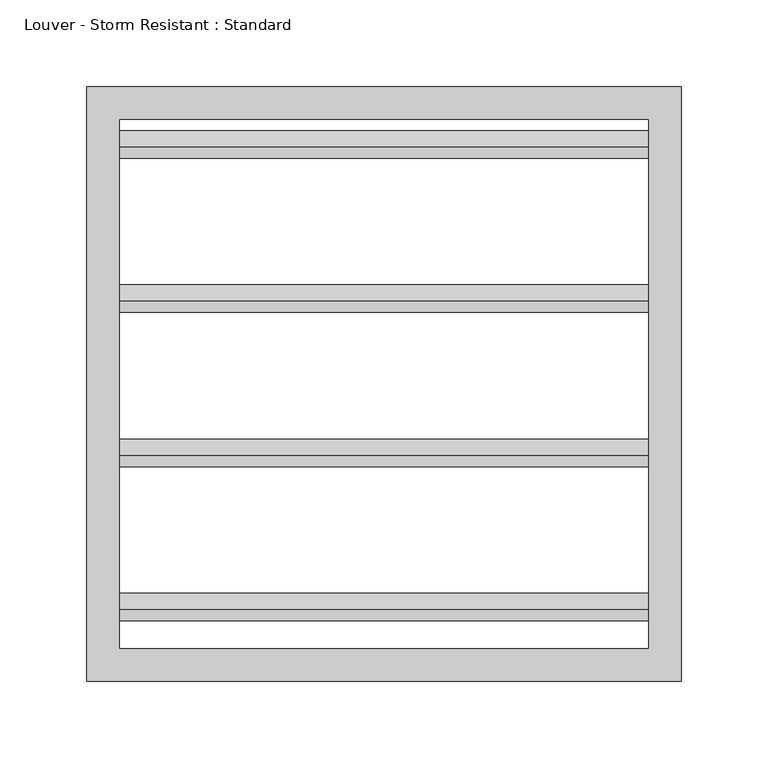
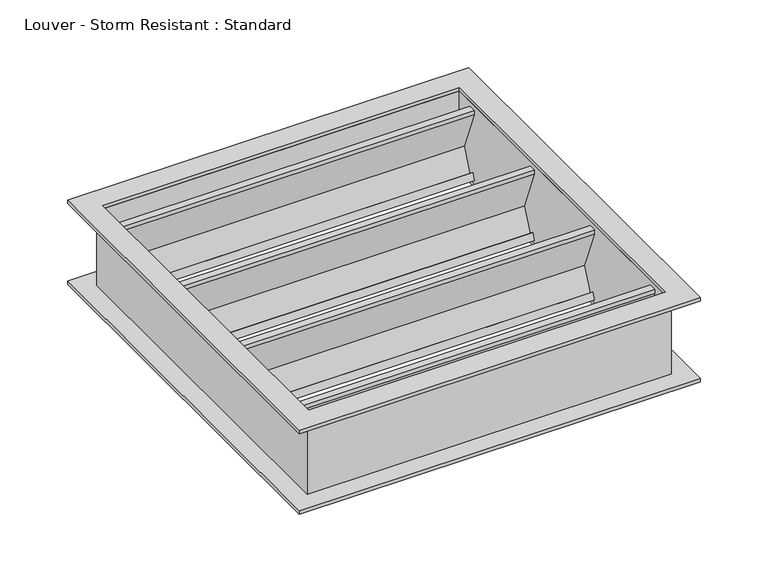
"""IFC4 building model written with IfcOpenShell, lengths in millimetres: air terminal geometry, Louver - Storm Resistant : Standard."""

import ifcopenshell
import ifcopenshell.guid

model = None  # the IFC model being written
_history = None  # IfcOwnerHistory: only IFC2X3 demands one
_inside = {}  # id of a spatial element -> (the spatial element, [elements in it])
_under = {}  # id of a project, library or spatial element -> (it, [spatial elements below it])
_declared = {}  # id of a project -> (the project, [libraries it declares])
_typed = {}  # id of a type object -> (the type object, [elements of that type])
_made_of = {}  # id of a material, layer set ... -> (it, [elements and type objects made of it])


def new_model(schema):
    """Start an empty IFC model of exactly this schema.

    Asked for "IFC4X3", IfcOpenShell would pick the latest addendum, in which some entities
    have other attributes; the version numbers below select the first issue.
    IFC2X3 requires an IfcOwnerHistory on every rooted entity: one is made here for all.
    """
    global model, _history
    if schema == "IFC4X3":
        model = ifcopenshell.file(schema_version=(4, 3, 0, 0))
    else:
        model = ifcopenshell.file(schema=schema)
    _inside.clear()
    _under.clear()
    _declared.clear()
    _typed.clear()
    _made_of.clear()
    _history = None
    if model.schema == "IFC2X3":
        org = make("IfcOrganization", Name="unknown")
        user = make(
            "IfcPersonAndOrganization",
            ThePerson=make("IfcPerson", FamilyName="unknown"),
            TheOrganization=org,
        )
        app = make(
            "IfcApplication",
            ApplicationDeveloper=org,
            Version="unknown",
            ApplicationFullName="unknown",
            ApplicationIdentifier="unknown",
        )
        _history = make(
            "IfcOwnerHistory",
            OwningUser=user,
            OwningApplication=app,
            ChangeAction="ADDED",
            CreationDate=0,
        )
    return model


def make(cls, **values):
    """One entity of the class cls with the attributes given. An attribute that is None is left unset."""
    return model.create_entity(
        cls, **{name: value for name, value in values.items() if value is not None}
    )


def rooted(cls, **values):
    """An entity with a GlobalId (a new one), such as an element, a storey or a relation."""
    return make(cls, GlobalId=ifcopenshell.guid.new(), OwnerHistory=_history, **values)


def si_unit(unit_type, name, prefix=None):
    """IfcSIUnit, for example si_unit("LENGTHUNIT", "METRE", prefix="MILLI")."""
    return make("IfcSIUnit", UnitType=unit_type, Prefix=prefix, Name=name)


def assignment(units):
    """IfcUnitAssignment: the units of a project."""
    return None if units is None else make("IfcUnitAssignment", Units=units)


def point(xyz):
    """IfcCartesianPoint."""
    return None if xyz is None else make("IfcCartesianPoint", Coordinates=xyz)


def direction(xyz):
    """IfcDirection."""
    return None if xyz is None else make("IfcDirection", DirectionRatios=xyz)


def frame(location, z_axis=None, x_axis=None):
    """IfcAxis2Placement3D, a coordinate frame: its origin and axes. An axis left out is left unset."""
    return make(
        "IfcAxis2Placement3D",
        Location=point(location),
        Axis=direction(z_axis),
        RefDirection=direction(x_axis),
    )


def origin():
    """The frame at (0, 0, 0) with its axes left unset."""
    return frame((0.0, 0.0, 0.0))


def place(relative_to, where):
    """IfcLocalPlacement: puts the frame where relative to a parent placement (None: the world)."""
    return make(
        "IfcLocalPlacement", PlacementRelTo=relative_to, RelativePlacement=where
    )


def context(
    kind, dimensions, precision=None, world=None, true_north=None, identifier=None
):
    """IfcGeometricRepresentationContext, for example the 3D "Model" context."""
    return make(
        "IfcGeometricRepresentationContext",
        ContextIdentifier=identifier,
        ContextType=kind,
        CoordinateSpaceDimension=dimensions,
        Precision=precision,
        WorldCoordinateSystem=world,
        TrueNorth=true_north,
    )


def project(units=None, contexts=None):
    """IfcProject with its units and contexts."""
    return rooted(
        "IfcProject",
        Name="project",
        RepresentationContexts=contexts,
        UnitsInContext=assignment(units),
    )


def spatial(cls, under=None, at=None, **own):
    """A site, building, storey or space (cls), placed at a placement, below another one or the project."""
    s = rooted(cls, ObjectPlacement=at, **own)
    if under is not None:
        _under.setdefault(under.id(), (under, []))[1].append(s)
    return s


def polyline(points):
    """IfcPolyline through the points."""
    return make("IfcPolyline", Points=[point(p) for p in points])


def outline(outer, holes=None, kind="AREA"):
    """IfcArbitraryClosedProfileDef: a profile drawn as a closed curve; with holes, ...WithVoids."""
    if holes is None:
        return make("IfcArbitraryClosedProfileDef", ProfileType=kind, OuterCurve=outer)
    return make(
        "IfcArbitraryProfileDefWithVoids",
        ProfileType=kind,
        OuterCurve=outer,
        InnerCurves=holes,
    )


def extrude(swept, where, along, depth):
    """IfcExtrudedAreaSolid: the profile swept, set in the frame where, extruded along a direction by depth."""
    return make(
        "IfcExtrudedAreaSolid",
        SweptArea=swept,
        Position=where,
        ExtrudedDirection=direction(along),
        Depth=depth,
    )


def shape(context_of_items, identifier, shape_type, items):
    """IfcShapeRepresentation: the items that make up one representation, for example the "Body"."""
    return make(
        "IfcShapeRepresentation",
        ContextOfItems=context_of_items,
        RepresentationIdentifier=identifier,
        RepresentationType=shape_type,
        Items=items,
    )


def source(mapping_origin, context_of_items, identifier, shape_type, items):
    """IfcRepresentationMap: a shape defined once, which mapped items show again and again."""
    return make(
        "IfcRepresentationMap",
        MappingOrigin=mapping_origin,
        MappedRepresentation=shape(context_of_items, identifier, shape_type, items),
    )


def transform(
    local_origin,
    x_axis=None,
    y_axis=None,
    z_axis=None,
    scale=None,
    scale2=None,
    scale3=None,
    uniform=True,
):
    """IfcCartesianTransformationOperator3D, or its non-uniform kind. x_axis, y_axis, z_axis: its Axis1, 2, 3."""
    if uniform:
        return make(
            "IfcCartesianTransformationOperator3D",
            Axis1=direction(x_axis),
            Axis2=direction(y_axis),
            LocalOrigin=point(local_origin),
            Scale=scale,
            Axis3=direction(z_axis),
        )
    return make(
        "IfcCartesianTransformationOperator3DnonUniform",
        Axis1=direction(x_axis),
        Axis2=direction(y_axis),
        LocalOrigin=point(local_origin),
        Scale=scale,
        Axis3=direction(z_axis),
        Scale2=scale2,
        Scale3=scale3,
    )


def mapped(mapping_source, mapping_target):
    """IfcMappedItem: shows the shape of a source again, moved by a transform."""
    return make(
        "IfcMappedItem", MappingSource=mapping_source, MappingTarget=mapping_target
    )


def made_of(thing, what):
    """Note that an element or type object is made of a material, layer set ...; save() writes the relation."""
    if what is not None:
        _made_of.setdefault(what.id(), (what, []))[1].append(thing)
    return thing


def element(
    cls,
    number,
    at=None,
    inside=None,
    cuts=None,
    type_object=None,
    material=None,
    context=None,
    identifier="Body",
    shape_type=None,
    held_by="IfcProductDefinitionShape",
    body=None,
    shapes=None,
    **own,
):
    """One element of the class cls, such as IfcWall. Its Tag is "e" and its number.

    at: its placement. inside: the storey or other place that contains it. cuts: it is an
    opening in that element (IfcRelVoidsElement). A single representation is given by context,
    identifier, shape_type and body (its items); several are given by shapes. held_by: the class
    of the entity that holds the representations. save() writes the other relations.
    """
    e = rooted(cls, Tag="e%d" % number, ObjectPlacement=at, **own)
    if body is not None:
        shapes = [shape(context, identifier, shape_type, body)]
    if shapes is not None:
        e.Representation = make(held_by, Representations=shapes)
    if inside is not None:
        _inside.setdefault(inside.id(), (inside, []))[1].append(e)
    if cuts is not None:
        rooted(
            "IfcRelVoidsElement", RelatingBuildingElement=cuts, RelatedOpeningElement=e
        )
    if type_object is not None:
        _typed.setdefault(type_object.id(), (type_object, []))[1].append(e)
    return made_of(e, material)


def aggregate(whole, parts):
    """IfcRelAggregates: a whole, such as a stair, and the parts it consists of."""
    return rooted("IfcRelAggregates", RelatingObject=whole, RelatedObjects=parts)


def save(model, path):
    """Write the relations noted so far, then the file.

    IfcRelAggregates (storeys below a building ...), IfcRelContainedInSpatialStructure (elements
    in a storey), IfcRelDefinesByType, IfcRelAssociatesMaterial and IfcRelDeclares: one each for
    every whole, place, type object, material and project.
    """
    for whole, parts in _under.values():
        aggregate(whole, parts)
    for where, things in _inside.values():
        rooted(
            "IfcRelContainedInSpatialStructure",
            RelatedElements=things,
            RelatingStructure=where,
        )
    for kind, things in _typed.values():
        rooted("IfcRelDefinesByType", RelatedObjects=things, RelatingType=kind)
    for what, things in _made_of.values():
        rooted("IfcRelAssociatesMaterial", RelatedObjects=things, RelatingMaterial=what)
    for by, libraries in _declared.values():
        rooted("IfcRelDeclares", RelatingContext=by, RelatedDefinitions=libraries)
    model.write(path)


def louver_storm_resistant_standard_d3ff6451(model_context):
    return source(origin(), model_context, "Body", "SweptSolid", [
        extrude(outline(polyline([(47.625, -7.3025), (47.625, -8.255), (42.06875, -8.255), (42.06875, -10.63625), (57.15, -48.5775), (47.5672197, -70.8025), (41.3327803, -70.8025), (43.5206765, -64.7913045), (44.1927089, -65.2656803), (42.4085925, -70.1675), (47.0438746, -70.1675), (56.1789184, -48.5767932), (41.275, -10.8875407), (41.275, -7.3025), (47.625, -7.3025)])), frame((-152.4, 0.0, 0.0), z_axis=(1.0, 0.0, 0.0), x_axis=(0.0, 1.0, 0.0)), (0.0, 0.0, 1.0), 304.8),
        extrude(outline(polyline([(-41.275, -7.3025), (-41.275, -8.255), (-46.83125, -8.255), (-46.83125, -10.63625), (-31.75, -48.5775), (-41.3327803, -70.8025), (-47.5672197, -70.8025), (-45.3793235, -64.7913045), (-44.7072911, -65.2656803), (-46.4914075, -70.1675), (-41.8561254, -70.1675), (-32.7210816, -48.5767932), (-47.625, -10.8875407), (-47.625, -7.3025), (-41.275, -7.3025)])), frame((-152.4, 0.0, 0.0), z_axis=(1.0, 0.0, 0.0), x_axis=(0.0, 1.0, 0.0)), (0.0, 0.0, 1.0), 304.8),
        extrude(outline(polyline([(136.525, -7.3025), (136.525, -8.255), (130.96875, -8.255), (130.96875, -10.63625), (146.05, -48.5775), (136.4672197, -70.8025), (130.2327803, -70.8025), (132.4206765, -64.7913045), (133.0927089, -65.2656803), (131.3085925, -70.1675), (135.9438746, -70.1675), (145.0789184, -48.5767932), (130.175, -10.8875407), (130.175, -7.3025), (136.525, -7.3025)])), frame((-152.4, 0.0, 0.0), z_axis=(1.0, 0.0, 0.0), x_axis=(0.0, 1.0, 0.0)), (0.0, 0.0, 1.0), 304.8),
        extrude(outline(polyline([(-130.175, -7.3025), (-130.175, -8.255), (-135.73125, -8.255), (-135.73125, -10.63625), (-120.65, -48.5775), (-130.2327803, -70.8025), (-136.4672197, -70.8025), (-134.2793235, -64.7913045), (-133.6072911, -65.2656803), (-135.3914075, -70.1675), (-130.7561254, -70.1675), (-121.6210816, -48.5767932), (-136.525, -10.8875407), (-136.525, -7.3025), (-130.175, -7.3025)])), frame((-152.4, 0.0, 0.0), z_axis=(1.0, 0.0, 0.0), x_axis=(0.0, 1.0, 0.0)), (0.0, 0.0, 1.0), 304.8),
        extrude(outline(polyline([(155.575, 155.575), (155.575, -155.575), (-155.575, -155.575), (-155.575, 155.575), (155.575, 155.575)]), holes=[polyline([(152.4, 152.4), (-152.4, 152.4), (-152.4, -152.4), (152.4, -152.4), (152.4, 152.4)])]), frame((0.0, 0.0, -73.025), z_axis=(0.0, 0.0, 1.0), x_axis=(1.0, 0.0, 0.0)), (0.0, 0.0, 1.0), 69.85),
        extrude(outline(polyline([(171.45, 171.45), (171.45, -171.45), (-171.45, -171.45), (-171.45, 171.45), (171.45, 171.45)]), holes=[polyline([(152.4, 152.4), (-152.4, 152.4), (-152.4, -152.4), (152.4, -152.4), (152.4, 152.4)])]), frame((0.0, 0.0, -76.2), z_axis=(0.0, 0.0, 1.0), x_axis=(1.0, 0.0, 0.0)), (0.0, 0.0, 1.0), 3.175),
        extrude(outline(polyline([(171.45, 171.45), (171.45, -171.45), (-171.45, -171.45), (-171.45, 171.45), (171.45, 171.45)]), holes=[polyline([(152.4, 152.4), (-152.4, 152.4), (-152.4, -152.4), (152.4, -152.4), (152.4, 152.4)])]), frame((0.0, 0.0, -3.175), z_axis=(0.0, 0.0, 1.0), x_axis=(1.0, 0.0, 0.0)), (0.0, 0.0, 1.0), 3.175),
    ])


if __name__ == "__main__":
    model = new_model("IFC4")
    model_context = context("Model", 3, world=origin())
    ifc_project = project(units=[si_unit("LENGTHUNIT", "METRE", prefix="MILLI")], contexts=[model_context])
    site = spatial("IfcSite", under=ifc_project)
    building = spatial("IfcBuilding", under=site)
    placement = place(None, origin())
    louver_storm_resistant_standard_shape = louver_storm_resistant_standard_d3ff6451(model_context)
    element("IfcAirTerminal", 1, ObjectType="Louver - Storm Resistant : Standard", at=placement, inside=building, context=model_context, shape_type="MappedRepresentation", body=[
        mapped(louver_storm_resistant_standard_shape, transform((0.0, 0.0, 0.0), x_axis=(1.0, 0.0, 0.0), y_axis=(0.0, 1.0, 0.0), z_axis=(0.0, 0.0, 1.0))),
    ])
    save(model, "model.ifc")
